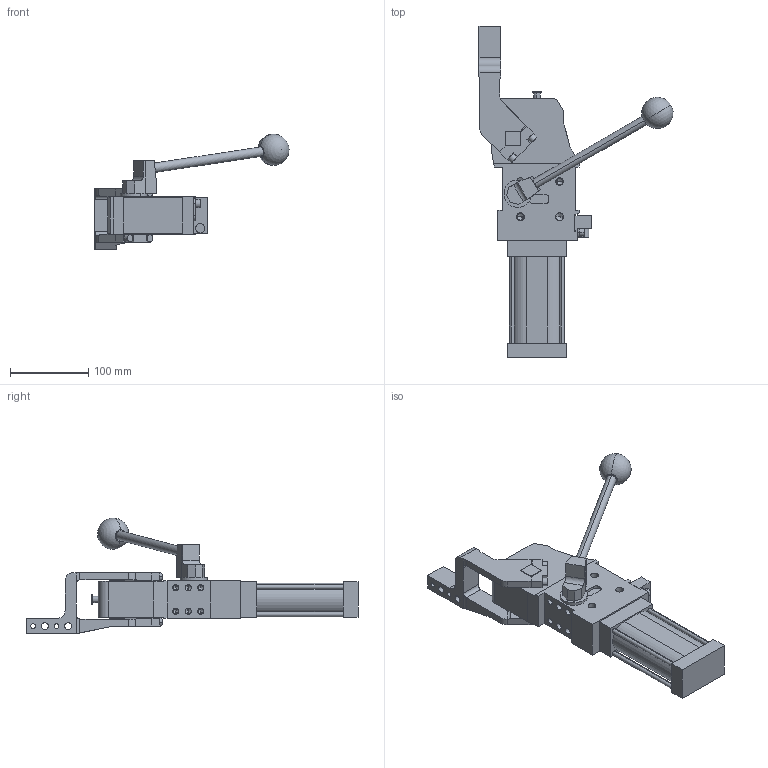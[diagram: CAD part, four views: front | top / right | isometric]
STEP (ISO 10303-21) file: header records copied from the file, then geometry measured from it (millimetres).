
FILE_DESCRIPTION (( 'STEP AP214' ), '1' );
FILE_NAME ('cplm50lah1di1g_107.STEP', '2023-01-26T13:16:27', ( '' ), ( '' ), 'SwSTEP 2.0', 'SolidWorks 2022', '' );
FILE_SCHEMA (( 'AUTOMOTIVE_DESIGN' ));
Length unit declared in the file: millimetre
Products named in the file (5): leva_sx_offset_15_cpl50; comando_manuale_cplm_50; meccanica_cplm_50; cplm50lah1di1g_107; blocchetto_VEP_0
Assembly tree (4 placements, depth 2):
  cplm50lah1di1g_107
    meccanica_cplm_50
    blocchetto_VEP_0
    leva_sx_offset_15_cpl50
    comando_manuale_cplm_50
Bounding box: 248.06 x 424.5 x 148 mm (x, y, z)
Volume: 1469960 mm3; surface area: 181399.7 mm2
Topology: 4 solids, 4 shells, 431 faces, 1108 edges, 691 vertices
Faces by surface type: plane 212, cylinder 167, cone 50, sphere 2
Entity records: 14371 total; most frequent: DIRECTION 2277, CARTESIAN_POINT 2271, ORIENTED_EDGE 2114, EDGE_CURVE 1057, AXIS2_PLACEMENT_3D 792, LINE 693, VECTOR 693, VERTEX_POINT 688
